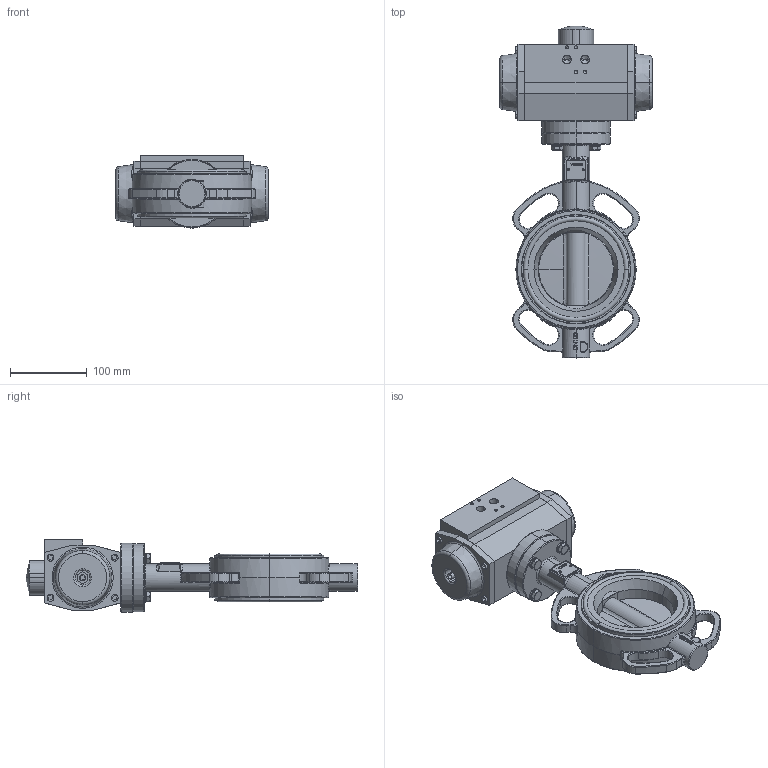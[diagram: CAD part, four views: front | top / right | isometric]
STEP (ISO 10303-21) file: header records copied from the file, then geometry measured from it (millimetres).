
FILE_DESCRIPTION (( 'STEP AP214' ), '1' );
FILE_NAME ('VTB200 DN100 + AP3D.STEP', '2015-10-04T19:18:22', ( '' ), ( '' ), 'SwSTEP 2.0', 'SolidWorks 2013', '' );
FILE_SCHEMA (( 'AUTOMOTIVE_DESIGN' ));
Length unit declared in the file: millimetre
Products named in the file (10): hex bolt gradec_din_ISO 4016 - M8 x 40 x 22-WN; plain washer clevis pin grade a_din_Washer ISO 8738 - 8; Verloopster 17_11; AP3_Default<As Machined>; YF090F5F7H16D16NYL; VTB200 Wafer DN100 BS; Typeplaatje xxmm; Klep VTB200 DN100 2013; Huis met zitting DN100 2013; VTB200 DN100 + AP3D
Assembly tree (15 placements, depth 3):
  VTB200 DN100 + AP3D
    VTB200 Wafer DN100 BS
      Huis met zitting DN100 2013
      Klep VTB200 DN100 2013
      Typeplaatje xxmm
    YF090F5F7H16D16NYL
    AP3_Default<As Machined>
    Verloopster 17_11
    plain washer clevis pin grade a_din_Washer ISO 8738 - 8  x4
    hex bolt gradec_din_ISO 4016 - M8 x 40 x 22-WN  x4
Bounding box: 199 x 433.99 x 94.5 mm (x, y, z)
Volume: 2569203 mm3; surface area: 357390.3 mm2
Topology: 22 solids, 22 shells, 1222 faces, 2962 edges, 1811 vertices
Faces by surface type: plane 421, cylinder 308, bspline 199, torus 180, cone 92, sphere 22
Entity records: 51328 total; most frequent: CARTESIAN_POINT 23091, ORIENTED_EDGE 5408, DIRECTION 5127, EDGE_CURVE 2704, AXIS2_PLACEMENT_3D 2020, VERTEX_POINT 1691, EDGE_LOOP 1249, ADVANCED_FACE 1123
